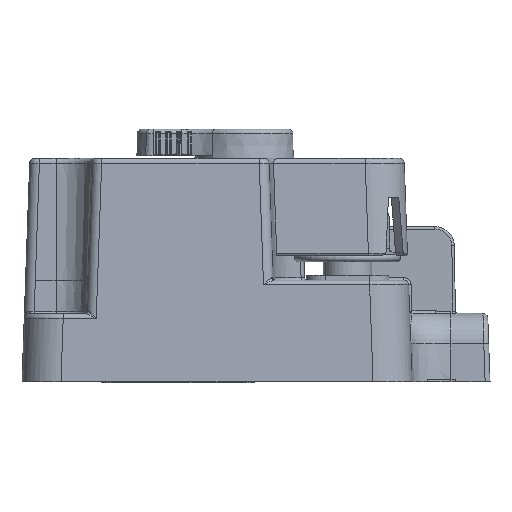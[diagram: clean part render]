
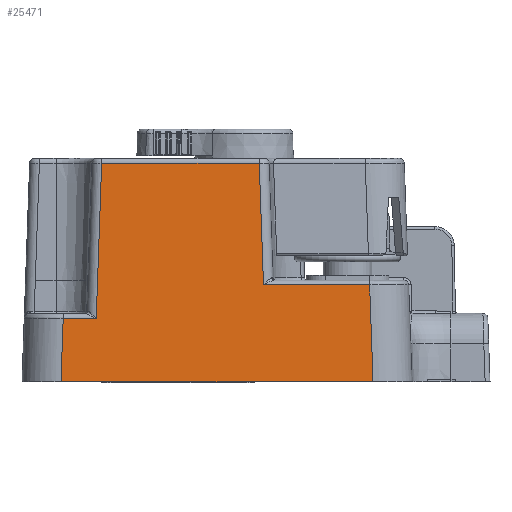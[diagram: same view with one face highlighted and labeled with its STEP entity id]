
A CAD part, left-side view. The second image highlights one B-rep face of the part: STEP entity #25471.
In plain terms, the highlighted planar face has unit normal (-0.999, 0, 0.035).
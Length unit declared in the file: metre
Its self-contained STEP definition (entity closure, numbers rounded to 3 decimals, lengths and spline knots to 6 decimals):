
#7860=ORIENTED_EDGE('',*,*,#13398,.T.);
#7861=ORIENTED_EDGE('',*,*,#13008,.T.);
#7862=ORIENTED_EDGE('',*,*,#13179,.T.);
#7863=ORIENTED_EDGE('',*,*,#13109,.T.);
#7864=ORIENTED_EDGE('',*,*,#13167,.T.);
#7865=ORIENTED_EDGE('',*,*,#12985,.T.);
#7866=ORIENTED_EDGE('',*,*,#13459,.T.);
#7867=ORIENTED_EDGE('',*,*,#13460,.F.);
#12985=EDGE_CURVE('',#16098,#16189,#18171,.T.);
#13008=EDGE_CURVE('',#16200,#16082,#18182,.T.);
#13109=EDGE_CURVE('',#16244,#16250,#18221,.T.);
#13167=EDGE_CURVE('',#16250,#16098,#18239,.T.);
#13179=EDGE_CURVE('',#16082,#16244,#18251,.T.);
#13398=EDGE_CURVE('',#16418,#16200,#18363,.T.);
#13459=EDGE_CURVE('',#16189,#16454,#18406,.T.);
#13460=EDGE_CURVE('',#16418,#16454,#18407,.T.);
#16082=VERTEX_POINT('',#42207);
#16098=VERTEX_POINT('',#42326);
#16189=VERTEX_POINT('',#43091);
#16200=VERTEX_POINT('',#43170);
#16244=VERTEX_POINT('',#43465);
#16250=VERTEX_POINT('',#43480);
#16418=VERTEX_POINT('',#44297);
#16454=VERTEX_POINT('',#44426);
#18171=LINE('',#43090,#19898);
#18182=LINE('',#43175,#19909);
#18221=LINE('',#43481,#19948);
#18239=LINE('',#43699,#19966);
#18251=LINE('',#43719,#19978);
#18363=LINE('',#44296,#20090);
#18406=LINE('',#44425,#20133);
#18407=LINE('',#44427,#20134);
#19898=VECTOR('',#31989,1.);
#19909=VECTOR('',#32034,1.);
#19948=VECTOR('',#32227,1.);
#19966=VECTOR('',#32343,1.);
#19978=VECTOR('',#32363,1.);
#20090=VECTOR('',#32819,1.);
#20133=VECTOR('',#32962,1.);
#20134=VECTOR('',#32963,1.);
#21748=EDGE_LOOP('',(#7860,#7861,#7862,#7863,#7864,#7865,#7866,#7867));
#23340=FACE_BOUND('',#21748,.T.);
#24257=PLANE('',#27692);
#25471=ADVANCED_FACE('',(#23340),#24257,.T.);
#27692=AXIS2_PLACEMENT_3D('',#44424,#32960,#32961);
#31989=DIRECTION('',(0.,1.,0.));
#32034=DIRECTION('',(0.,1.,0.));
#32227=DIRECTION('',(0.,1.,0.));
#32343=DIRECTION('',(-0.035,0.035,-0.999));
#32363=DIRECTION('',(0.035,0.035,0.999));
#32819=DIRECTION('',(0.035,0.035,0.999));
#32960=DIRECTION('',(-0.999,0.,0.035));
#32961=DIRECTION('',(0.035,0.,0.999));
#32962=DIRECTION('',(-0.035,0.035,-0.999));
#32963=DIRECTION('',(0.,1.,0.));
#42207=CARTESIAN_POINT('',(-0.040857,-0.014035,0.019835));
#42326=CARTESIAN_POINT('',(-0.041097,0.020274,0.012975));
#43090=CARTESIAN_POINT('',(-0.041097,-0.0445,0.012975));
#43091=CARTESIAN_POINT('',(-0.041097,0.027052,0.012975));
#43170=CARTESIAN_POINT('',(-0.040857,-0.035812,0.019835));
#43175=CARTESIAN_POINT('',(-0.040857,-0.0445,0.019835));
#43465=CARTESIAN_POINT('',(-0.039984,-0.013162,0.044835));
#43480=CARTESIAN_POINT('',(-0.039984,0.019162,0.044835));
#43481=CARTESIAN_POINT('',(-0.039984,-0.0445,0.044835));
#43699=CARTESIAN_POINT('',(-0.040826,0.020004,0.02073));
#43719=CARTESIAN_POINT('',(-0.041586,-0.014764,-0.001037));
#44296=CARTESIAN_POINT('',(-0.040833,-0.035788,0.020521));
#44297=CARTESIAN_POINT('',(-0.04155,-0.036505,0.));
#44424=CARTESIAN_POINT('',(-0.04155,-0.0445,0.));
#44425=CARTESIAN_POINT('',(-0.041462,0.027417,0.002508));
#44426=CARTESIAN_POINT('',(-0.04155,0.027505,0.));
#44427=CARTESIAN_POINT('',(-0.04155,-0.0445,0.));
